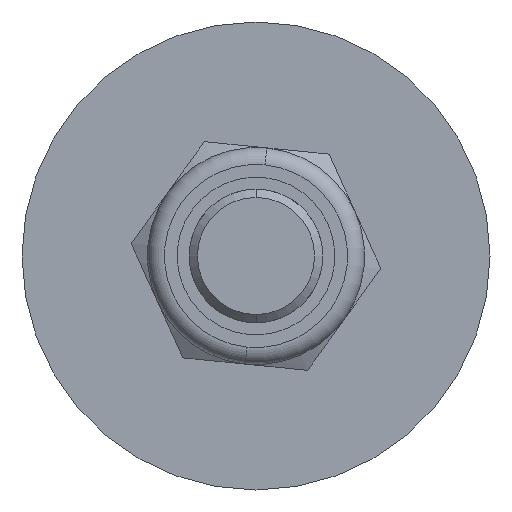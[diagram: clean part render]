
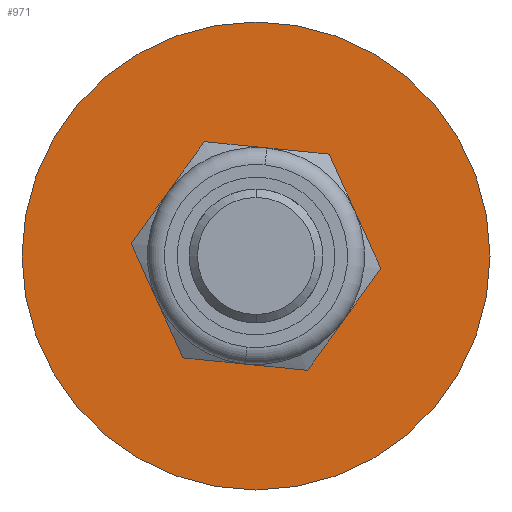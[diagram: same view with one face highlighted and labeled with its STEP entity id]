
A CAD part, left-side view. The second image highlights one B-rep face of the part: STEP entity #971.
In plain terms, the highlighted planar face has unit normal (-1, 0, 0).
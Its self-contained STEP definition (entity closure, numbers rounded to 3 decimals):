
#952 = EDGE_LOOP ( 'NONE', ( #5295, #5290 ) ) ;
#971 = ADVANCED_FACE ( 'NONE', ( #3314, #3321 ), #3313, .F. ) ;
#974 = EDGE_LOOP ( 'NONE', ( #5291, #5294 ) ) ;
#978 = EDGE_CURVE ( 'NONE', #5374, #5303, #3303, .T. ) ;
#3275 = AXIS2_PLACEMENT_3D ( 'NONE', #3312, #3304, #3301 ) ;
#3301 = DIRECTION ( 'NONE',  ( 0., 0., -1. ) ) ;
#3303 = CIRCLE ( 'NONE', #3353, 14. ) ;
#3304 = DIRECTION ( 'NONE',  ( 1., 0., 0. ) ) ;
#3312 = CARTESIAN_POINT ( 'NONE',  ( -3., 14., 0. ) ) ;
#3313 = PLANE ( 'NONE',  #3275 ) ;
#3314 = FACE_BOUND ( 'NONE', #952, .T. ) ;
#3321 = FACE_OUTER_BOUND ( 'NONE', #974, .T. ) ;
#3350 = DIRECTION ( 'NONE',  ( 0., 0., 1. ) ) ;
#3351 = DIRECTION ( 'NONE',  ( -1., 0., 0. ) ) ;
#3352 = CARTESIAN_POINT ( 'NONE',  ( -3., 0., 0. ) ) ;
#3353 = AXIS2_PLACEMENT_3D ( 'NONE', #3352, #3351, #3350 ) ;
#3646 = DIRECTION ( 'NONE',  ( 0., 0., 1. ) ) ;
#3647 = DIRECTION ( 'NONE',  ( -1., 0., 0. ) ) ;
#3650 = CIRCLE ( 'NONE', #3656, 4.5 ) ;
#3655 = CARTESIAN_POINT ( 'NONE',  ( -3., 0., 0. ) ) ;
#3656 = AXIS2_PLACEMENT_3D ( 'NONE', #3655, #3647, #3646 ) ;
#4355 = CARTESIAN_POINT ( 'NONE',  ( -3., 0., 0. ) ) ;
#4356 = AXIS2_PLACEMENT_3D ( 'NONE', #4355, #4369, #4407 ) ;
#4367 = CIRCLE ( 'NONE', #4356, 4.5 ) ;
#4369 = DIRECTION ( 'NONE',  ( -1., 0., 0. ) ) ;
#4371 = CARTESIAN_POINT ( 'NONE',  ( -3., 0., -4.5 ) ) ;
#4379 = CARTESIAN_POINT ( 'NONE',  ( -3., 0., 14. ) ) ;
#4407 = DIRECTION ( 'NONE',  ( 0., 0., 1. ) ) ;
#4441 = AXIS2_PLACEMENT_3D ( 'NONE', #4475, #4494, #4531 ) ;
#4468 = CARTESIAN_POINT ( 'NONE',  ( -3., 0., 4.5 ) ) ;
#4471 = CARTESIAN_POINT ( 'NONE',  ( -3., 0., -14. ) ) ;
#4475 = CARTESIAN_POINT ( 'NONE',  ( -3., 0., 0. ) ) ;
#4476 = CIRCLE ( 'NONE', #4441, 14. ) ;
#4494 = DIRECTION ( 'NONE',  ( -1., 0., 0. ) ) ;
#4531 = DIRECTION ( 'NONE',  ( 0., 0., 1. ) ) ;
#5290 = ORIENTED_EDGE ( 'NONE', *, *, #5309, .F. ) ;
#5291 = ORIENTED_EDGE ( 'NONE', *, *, #5372, .T. ) ;
#5294 = ORIENTED_EDGE ( 'NONE', *, *, #978, .T. ) ;
#5295 = ORIENTED_EDGE ( 'NONE', *, *, #5329, .F. ) ;
#5303 = VERTEX_POINT ( 'NONE', #4379 ) ;
#5305 = VERTEX_POINT ( 'NONE', #4371 ) ;
#5309 = EDGE_CURVE ( 'NONE', #5305, #5376, #4367, .T. ) ;
#5329 = EDGE_CURVE ( 'NONE', #5376, #5305, #3650, .T. ) ;
#5372 = EDGE_CURVE ( 'NONE', #5303, #5374, #4476, .T. ) ;
#5374 = VERTEX_POINT ( 'NONE', #4471 ) ;
#5376 = VERTEX_POINT ( 'NONE', #4468 ) ;
